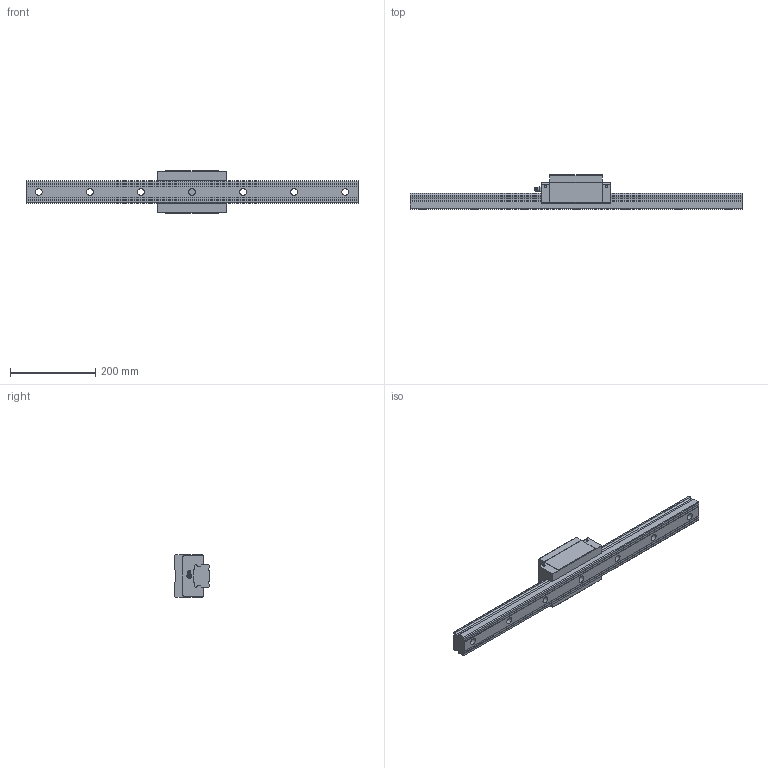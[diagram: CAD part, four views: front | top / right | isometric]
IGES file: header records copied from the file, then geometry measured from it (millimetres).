
Start section: Data from Parasolid IGES Translator 26.0.171, Copyright(c) 2006 Siemens PLM Software. All Rights Reserved.
Global section: file name: SVR55RH1SS-780L_G30_0_B-PT18_308-35_0_0_01.igs; native system: By Siemens PLM Incorporated; preprocessor: XPlus GENERIC/IGES 26.0.171; author: Noname; organization: Noname; date: 20240517.072839; units: millimetre
Bounding box: 780 x 80 x 100 mm (x, y, z)
Surface area: 235688.8 mm2 (no closed solid volume)
Topology: 0 solids, 0 shells, 181 faces, 941 edges, 880 vertices
Faces by surface type: extrusion 100, revolution 81
